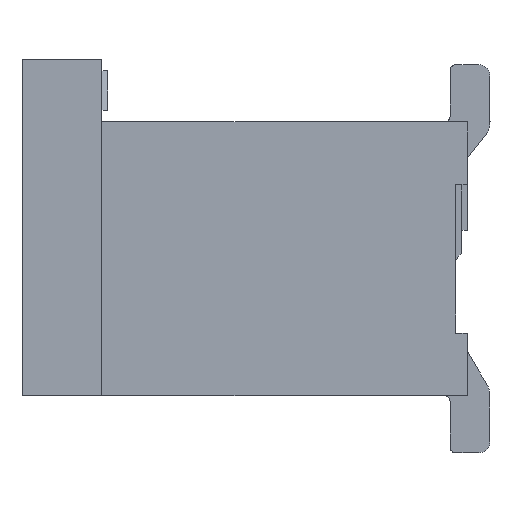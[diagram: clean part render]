
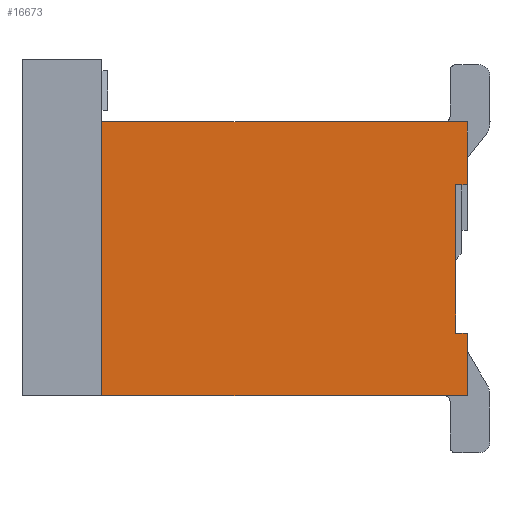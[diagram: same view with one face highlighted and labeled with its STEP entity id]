
A CAD part, left-side view. The second image highlights one B-rep face of the part: STEP entity #16673.
In plain terms, the highlighted planar face has unit normal (-1, 0, 0).
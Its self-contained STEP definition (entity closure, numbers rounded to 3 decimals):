
#913=DIRECTION('',(0.,0.,1.));
#914=VECTOR('',#913,1.3);
#915=CARTESIAN_POINT('',(-5.45,0.3,-2.4));
#916=LINE('',#915,#914);
#1385=DIRECTION('',(0.,-1.,0.));
#1386=VECTOR('',#1385,3.2);
#1387=CARTESIAN_POINT('',(-5.45,3.4,-2.95));
#1388=LINE('',#1387,#1386);
#1847=DIRECTION('',(0.,-1.,0.));
#1848=VECTOR('',#1847,3.2);
#1849=CARTESIAN_POINT('',(-5.45,3.4,-0.55));
#1850=LINE('',#1849,#1848);
#1851=DIRECTION('',(0.,0.,-1.));
#1852=VECTOR('',#1851,0.55);
#1853=CARTESIAN_POINT('',(-5.45,0.2,-0.55));
#1854=LINE('',#1853,#1852);
#1855=DIRECTION('',(0.,1.,0.));
#1856=VECTOR('',#1855,0.1);
#1857=CARTESIAN_POINT('',(-5.45,0.2,-1.1));
#1858=LINE('',#1857,#1856);
#1859=DIRECTION('',(0.,-1.,0.));
#1860=VECTOR('',#1859,0.1);
#1861=CARTESIAN_POINT('',(-5.45,0.3,-2.4));
#1862=LINE('',#1861,#1860);
#1863=DIRECTION('',(0.,0.,-1.));
#1864=VECTOR('',#1863,0.55);
#1865=CARTESIAN_POINT('',(-5.45,0.2,-2.4));
#1866=LINE('',#1865,#1864);
#1867=DIRECTION('',(0.,0.,1.));
#1868=VECTOR('',#1867,2.4);
#1869=CARTESIAN_POINT('',(-5.45,3.4,-2.95));
#1870=LINE('',#1869,#1868);
#13901=CARTESIAN_POINT('',(-5.45,3.4,-2.95));
#13902=VERTEX_POINT('',#13901);
#13903=CARTESIAN_POINT('',(-5.45,0.2,-2.95));
#13904=VERTEX_POINT('',#13903);
#14043=CARTESIAN_POINT('',(-5.45,0.2,-0.55));
#14044=VERTEX_POINT('',#14043);
#14045=CARTESIAN_POINT('',(-5.45,3.4,-0.55));
#14046=VERTEX_POINT('',#14045);
#14093=CARTESIAN_POINT('',(-5.45,0.3,-2.4));
#14094=VERTEX_POINT('',#14093);
#14095=CARTESIAN_POINT('',(-5.45,0.3,-1.1));
#14096=VERTEX_POINT('',#14095);
#14299=CARTESIAN_POINT('',(-5.45,0.2,-2.4));
#14300=VERTEX_POINT('',#14299);
#14301=CARTESIAN_POINT('',(-5.45,0.2,-1.1));
#14302=VERTEX_POINT('',#14301);
#16654=CARTESIAN_POINT('',(-5.45,1.8,-1.75));
#16655=DIRECTION('',(1.,0.,0.));
#16656=DIRECTION('',(0.,1.,0.));
#16657=AXIS2_PLACEMENT_3D('',#16654,#16655,#16656);
#16658=PLANE('',#16657);
#16659=ORIENTED_EDGE('',*,*,#15232,.T.);
#16661=ORIENTED_EDGE('',*,*,#16660,.T.);
#16663=ORIENTED_EDGE('',*,*,#16662,.T.);
#16664=ORIENTED_EDGE('',*,*,#15503,.F.);
#16666=ORIENTED_EDGE('',*,*,#16665,.T.);
#16668=ORIENTED_EDGE('',*,*,#16667,.T.);
#16669=ORIENTED_EDGE('',*,*,#15959,.F.);
#16670=ORIENTED_EDGE('',*,*,#16644,.T.);
#16671=EDGE_LOOP('',(#16659,#16661,#16663,#16664,#16666,#16668,#16669,#16670));
#16672=FACE_OUTER_BOUND('',#16671,.F.);
#16673=ADVANCED_FACE('',(#16672),#16658,.F.);
#15232=EDGE_CURVE('',#14046,#14044,#1850,.T.);
#15503=EDGE_CURVE('',#14094,#14096,#916,.T.);
#15959=EDGE_CURVE('',#13902,#13904,#1388,.T.);
#16644=EDGE_CURVE('',#13902,#14046,#1870,.T.);
#16660=EDGE_CURVE('',#14044,#14302,#1854,.T.);
#16662=EDGE_CURVE('',#14302,#14096,#1858,.T.);
#16665=EDGE_CURVE('',#14094,#14300,#1862,.T.);
#16667=EDGE_CURVE('',#14300,#13904,#1866,.T.);
